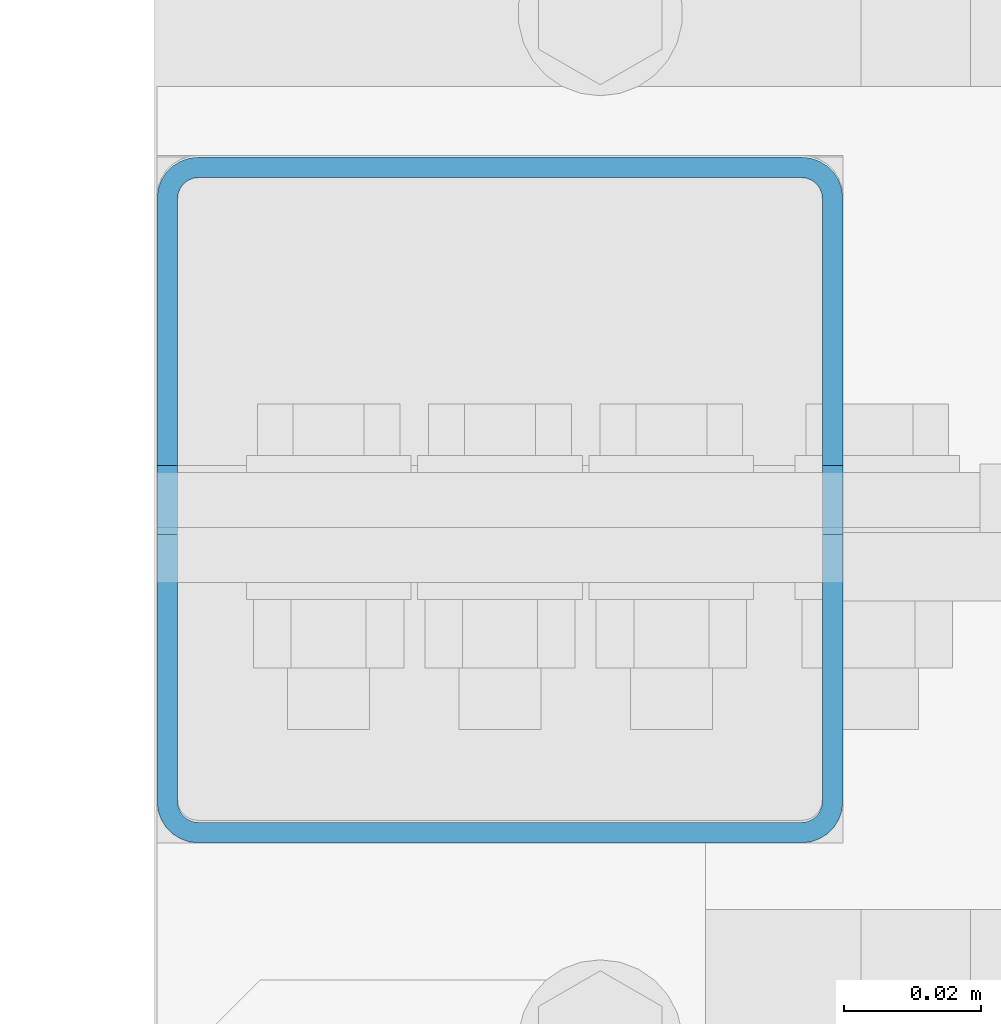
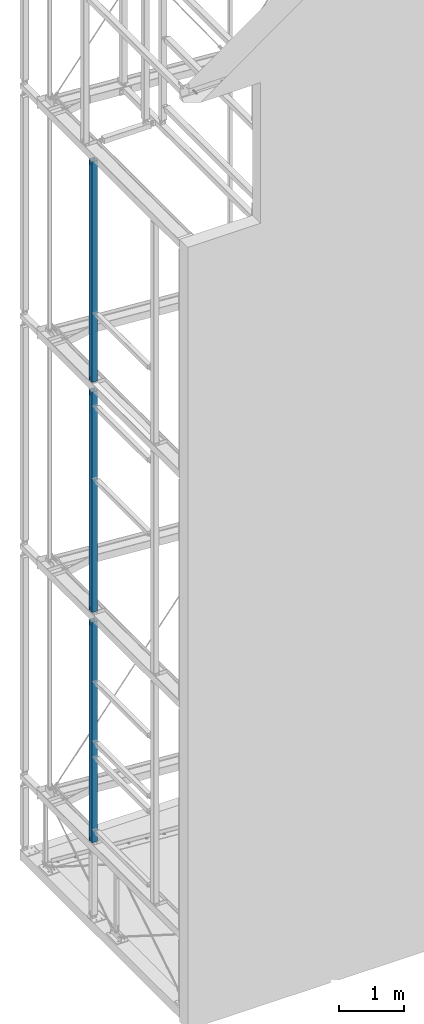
# One storey, part 15 of 271: 3 beams, 3 elements without a shape of their own.
"""IFC2X3 building model written with IfcOpenShell, lengths in millimetres."""

import ifcopenshell
import ifcopenshell.guid

model = None  # the IFC model being written
_history = None  # IfcOwnerHistory: only IFC2X3 demands one
_inside = {}  # id of a spatial element -> (the spatial element, [elements in it])
_under = {}  # id of a project, library or spatial element -> (it, [spatial elements below it])
_declared = {}  # id of a project -> (the project, [libraries it declares])
_typed = {}  # id of a type object -> (the type object, [elements of that type])
_made_of = {}  # id of a material, layer set ... -> (it, [elements and type objects made of it])


def new_model(schema):
    """Start an empty IFC model of exactly this schema.

    Asked for "IFC4X3", IfcOpenShell would pick the latest addendum, in which some entities
    have other attributes; the version numbers below select the first issue.
    IFC2X3 requires an IfcOwnerHistory on every rooted entity: one is made here for all.
    """
    global model, _history
    if schema == "IFC4X3":
        model = ifcopenshell.file(schema_version=(4, 3, 0, 0))
    else:
        model = ifcopenshell.file(schema=schema)
    _inside.clear()
    _under.clear()
    _declared.clear()
    _typed.clear()
    _made_of.clear()
    _history = None
    if model.schema == "IFC2X3":
        org = make("IfcOrganization", Name="unknown")
        user = make(
            "IfcPersonAndOrganization",
            ThePerson=make("IfcPerson", FamilyName="unknown"),
            TheOrganization=org,
        )
        app = make(
            "IfcApplication",
            ApplicationDeveloper=org,
            Version="unknown",
            ApplicationFullName="unknown",
            ApplicationIdentifier="unknown",
        )
        _history = make(
            "IfcOwnerHistory",
            OwningUser=user,
            OwningApplication=app,
            ChangeAction="ADDED",
            CreationDate=0,
        )
    return model


def make(cls, **values):
    """One entity of the class cls with the attributes given. An attribute that is None is left unset."""
    return model.create_entity(
        cls, **{name: value for name, value in values.items() if value is not None}
    )


def rooted(cls, **values):
    """An entity with a GlobalId (a new one), such as an element, a storey or a relation."""
    return make(cls, GlobalId=ifcopenshell.guid.new(), OwnerHistory=_history, **values)


def si_unit(unit_type, name, prefix=None):
    """IfcSIUnit, for example si_unit("LENGTHUNIT", "METRE", prefix="MILLI")."""
    return make("IfcSIUnit", UnitType=unit_type, Prefix=prefix, Name=name)


def assignment(units):
    """IfcUnitAssignment: the units of a project."""
    return None if units is None else make("IfcUnitAssignment", Units=units)


def point(xyz):
    """IfcCartesianPoint."""
    return None if xyz is None else make("IfcCartesianPoint", Coordinates=xyz)


def direction(xyz):
    """IfcDirection."""
    return None if xyz is None else make("IfcDirection", DirectionRatios=xyz)


def frame(location, z_axis=None, x_axis=None):
    """IfcAxis2Placement3D, a coordinate frame: its origin and axes. An axis left out is left unset."""
    return make(
        "IfcAxis2Placement3D",
        Location=point(location),
        Axis=direction(z_axis),
        RefDirection=direction(x_axis),
    )


def frame_2d(location, x_axis=None):
    """IfcAxis2Placement2D, a coordinate frame in the plane: its origin and x axis."""
    return make(
        "IfcAxis2Placement2D", Location=point(location), RefDirection=direction(x_axis)
    )


def origin_with_axes():
    """The frame at (0, 0, 0) with the z axis (0, 0, 1) and the x axis (1, 0, 0) written out."""
    return frame((0.0, 0.0, 0.0), z_axis=(0.0, 0.0, 1.0), x_axis=(1.0, 0.0, 0.0))


def origin_2d_with_axis():
    """The frame at (0, 0) in the plane with the x axis (1, 0) written out."""
    return frame_2d((0.0, 0.0), x_axis=(1.0, 0.0))


def place(relative_to, where):
    """IfcLocalPlacement: puts the frame where relative to a parent placement (None: the world)."""
    return make(
        "IfcLocalPlacement", PlacementRelTo=relative_to, RelativePlacement=where
    )


def context(
    kind, dimensions, precision=None, world=None, true_north=None, identifier=None
):
    """IfcGeometricRepresentationContext, for example the 3D "Model" context."""
    return make(
        "IfcGeometricRepresentationContext",
        ContextIdentifier=identifier,
        ContextType=kind,
        CoordinateSpaceDimension=dimensions,
        Precision=precision,
        WorldCoordinateSystem=world,
        TrueNorth=true_north,
    )


def subcontext(parent, identifier, kind, view, scale=None):
    """IfcGeometricRepresentationSubContext, for example "Body" below "Model"."""
    return make(
        "IfcGeometricRepresentationSubContext",
        ContextIdentifier=identifier,
        ContextType=kind,
        ParentContext=parent,
        TargetScale=scale,
        TargetView=view,
    )


def project(units=None, contexts=None):
    """IfcProject with its units and contexts."""
    return rooted(
        "IfcProject",
        Name="project",
        RepresentationContexts=contexts,
        UnitsInContext=assignment(units),
    )


def spatial(cls, under=None, at=None, **own):
    """A site, building, storey or space (cls), placed at a placement, below another one or the project."""
    s = rooted(cls, ObjectPlacement=at, **own)
    if under is not None:
        _under.setdefault(under.id(), (under, []))[1].append(s)
    return s


def polyline(points):
    """IfcPolyline through the points."""
    return make("IfcPolyline", Points=[point(p) for p in points])


def profile(cls, at=None, kind="AREA", **sizes):
    """A parametric profile (cls). Its sizes go by their IFC names, for example OverallWidth=200.0."""
    return make(cls, ProfileType=kind, Position=at, **sizes)


def hollow_rectangle(**sizes):
    """IfcRectangleHollowProfileDef."""
    return profile("IfcRectangleHollowProfileDef", **sizes)


def outline(outer, holes=None, kind="AREA"):
    """IfcArbitraryClosedProfileDef: a profile drawn as a closed curve; with holes, ...WithVoids."""
    if holes is None:
        return make("IfcArbitraryClosedProfileDef", ProfileType=kind, OuterCurve=outer)
    return make(
        "IfcArbitraryProfileDefWithVoids",
        ProfileType=kind,
        OuterCurve=outer,
        InnerCurves=holes,
    )


def extrude(swept, where, along, depth):
    """IfcExtrudedAreaSolid: the profile swept, set in the frame where, extruded along a direction by depth."""
    return make(
        "IfcExtrudedAreaSolid",
        SweptArea=swept,
        Position=where,
        ExtrudedDirection=direction(along),
        Depth=depth,
    )


def boolean(op, a, b):
    """IfcBooleanResult of two solids."""
    return make("IfcBooleanResult", Operator=op, FirstOperand=a, SecondOperand=b)


def halfspace(plane, agree):
    """IfcHalfSpaceSolid: all space on one side of the plane z = 0 of the frame plane."""
    return make(
        "IfcHalfSpaceSolid",
        BaseSurface=make("IfcPlane", Position=plane),
        AgreementFlag=agree,
    )


def shape(context_of_items, identifier, shape_type, items):
    """IfcShapeRepresentation: the items that make up one representation, for example the "Body"."""
    return make(
        "IfcShapeRepresentation",
        ContextOfItems=context_of_items,
        RepresentationIdentifier=identifier,
        RepresentationType=shape_type,
        Items=items,
    )


def material(Name=None, Category=None):
    """IfcMaterial."""
    return make("IfcMaterial", Name=Name, Category=Category)


def made_of(thing, what):
    """Note that an element or type object is made of a material, layer set ...; save() writes the relation."""
    if what is not None:
        _made_of.setdefault(what.id(), (what, []))[1].append(thing)
    return thing


def type_object(cls, material=None, **own):
    """A type object (cls), such as IfcWallType, which elements share."""
    return made_of(rooted(cls, **own), material)


def element(
    cls,
    number,
    at=None,
    inside=None,
    cuts=None,
    type_object=None,
    material=None,
    context=None,
    identifier="Body",
    shape_type=None,
    held_by="IfcProductDefinitionShape",
    body=None,
    shapes=None,
    **own,
):
    """One element of the class cls, such as IfcWall. Its Tag is "e" and its number.

    at: its placement. inside: the storey or other place that contains it. cuts: it is an
    opening in that element (IfcRelVoidsElement). A single representation is given by context,
    identifier, shape_type and body (its items); several are given by shapes. held_by: the class
    of the entity that holds the representations. save() writes the other relations.
    """
    e = rooted(cls, Tag="e%d" % number, ObjectPlacement=at, **own)
    if body is not None:
        shapes = [shape(context, identifier, shape_type, body)]
    if shapes is not None:
        e.Representation = make(held_by, Representations=shapes)
    if inside is not None:
        _inside.setdefault(inside.id(), (inside, []))[1].append(e)
    if cuts is not None:
        rooted(
            "IfcRelVoidsElement", RelatingBuildingElement=cuts, RelatedOpeningElement=e
        )
    if type_object is not None:
        _typed.setdefault(type_object.id(), (type_object, []))[1].append(e)
    return made_of(e, material)


def aggregate(whole, parts):
    """IfcRelAggregates: a whole, such as a stair, and the parts it consists of."""
    return rooted("IfcRelAggregates", RelatingObject=whole, RelatedObjects=parts)


def save(model, path):
    """Write the relations noted so far, then the file.

    IfcRelAggregates (storeys below a building ...), IfcRelContainedInSpatialStructure (elements
    in a storey), IfcRelDefinesByType, IfcRelAssociatesMaterial and IfcRelDeclares: one each for
    every whole, place, type object, material and project.
    """
    for whole, parts in _under.values():
        aggregate(whole, parts)
    for where, things in _inside.values():
        rooted(
            "IfcRelContainedInSpatialStructure",
            RelatedElements=things,
            RelatingStructure=where,
        )
    for kind, things in _typed.values():
        rooted("IfcRelDefinesByType", RelatedObjects=things, RelatingType=kind)
    for what, things in _made_of.values():
        rooted("IfcRelAssociatesMaterial", RelatedObjects=things, RelatingMaterial=what)
    for by, libraries in _declared.values():
        rooted("IfcRelDeclares", RelatingContext=by, RelatedDefinitions=libraries)
    model.write(path)


model = new_model("IFC2X3")

# Units and contexts
model_context = context("Model", 3, precision=1e-05, world=origin_with_axes())
body_context = subcontext(model_context, "Body", "Model", "MODEL_VIEW")
ifc_project = project(units=[si_unit("LENGTHUNIT", "METRE", prefix="MILLI"), si_unit("AREAUNIT", "SQUARE_METRE"), si_unit("VOLUMEUNIT", "CUBIC_METRE"), si_unit("MASSUNIT", "GRAM", prefix="KILO"), si_unit("TIMEUNIT", "SECOND"), si_unit("PLANEANGLEUNIT", "RADIAN"), si_unit("SOLIDANGLEUNIT", "STERADIAN"), si_unit("THERMODYNAMICTEMPERATUREUNIT", "DEGREE_CELSIUS"), si_unit("LUMINOUSINTENSITYUNIT", "LUMEN")], contexts=[model_context])

# Site, building, storey
site_placement = place(None, origin_with_axes())
site = spatial("IfcSite", under=ifc_project, at=site_placement, Name="Undefined", CompositionType="ELEMENT")
building_placement = place(site_placement, origin_with_axes())
building = spatial("IfcBuilding", under=site, at=building_placement, Name="Undefined", CompositionType="ELEMENT")
storey_placement = place(building_placement, origin_with_axes())
storey = spatial("IfcBuildingStorey", under=building, at=storey_placement, Name="Undefined", CompositionType="ELEMENT", Elevation=0.0)

# Assembly, beam
assembly_1_placement = place(storey_placement, origin_with_axes())
assembly_1 = element("IfcElementAssembly", 1, at=assembly_1_placement, inside=storey, AssemblyPlace="NOTDEFINED", PredefinedType="RIGID_FRAME")
ifc_material = material(Name="STEEL/S355JR")
beam_type = type_object("IfcBeamType", Name="SHS100*3", PredefinedType="NOTDEFINED")
beam_1_placement = place(assembly_1_placement, frame((38.3756870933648, 2799.05211980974, 10091.8499999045), z_axis=(0.0, 1.0, 0.0), x_axis=(0.0, 0.0, 1.0)))
beam_1 = element("IfcBeam", 2, at=beam_1_placement, type_object=beam_type, material=ifc_material, Name="RYGIEL", ObjectType="SHS100*3", context=body_context, shape_type="CSG", body=[
    boolean("DIFFERENCE", boolean("DIFFERENCE", boolean("DIFFERENCE", extrude(hollow_rectangle(XDim=100.0, YDim=100.0, WallThickness=3.0, InnerFilletRadius=3.0, OuterFilletRadius=6.0, at=origin_2d_with_axis()), frame((4141.0, 0.0, 0.0), z_axis=(-1.0, 0.0, 1.38777878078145e-17), x_axis=(0.0, -1.0, 0.0)), (0.0, 0.0, 1.0), 4141.0), extrude(outline(polyline([(0.0, 40.0), (80.0, 0.0), (151.0, -1.91135995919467e-12), (151.0, 120.0), (91.0, 120.0), (91.0, 150.0), (1.4210854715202e-14, 150.0), (0.0, 40.0)])), frame((4064.0, 99.9999999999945, 5.00000000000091), z_axis=(0.0, 0.0, -1.0), x_axis=(1.0, 0.0, 0.0)), (0.0, 0.0, 1.0), 10.0)), extrude(outline(polyline([(0.0, 40.0), (80.0, 0.0), (151.0, -1.91135995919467e-12), (151.0, 120.0), (91.0, 120.0), (91.0, 150.0), (1.4210854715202e-14, 150.0), (0.0, 40.0)])), frame((81.0000000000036, 99.9999999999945, -4.99999999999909), z_axis=(0.0, 0.0, 1.0), x_axis=(-1.0, 0.0, 1.38777878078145e-17)), (0.0, 0.0, 1.0), 10.0)), halfspace(frame((4.0, 0.0, -50.0), z_axis=(1.0, 0.0, 0.0), x_axis=(0.0, -1.0, 0.0)), True)),
])
aggregate(assembly_1, [beam_1])

assembly_2_placement = place(storey_placement, origin_with_axes())
assembly_2 = element("IfcElementAssembly", 3, at=assembly_2_placement, inside=storey, AssemblyPlace="NOTDEFINED", PredefinedType="RIGID_FRAME")
beam_2_placement = place(assembly_2_placement, frame((38.3756870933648, 2799.05211980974, 5771.84999990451), z_axis=(0.0, 1.0, 0.0), x_axis=(0.0, 0.0, 1.0)))
beam_2 = element("IfcBeam", 4, at=beam_2_placement, type_object=beam_type, material=ifc_material, Name="RYGIEL", ObjectType="SHS100*3", context=body_context, shape_type="CSG", body=[
    boolean("DIFFERENCE", boolean("DIFFERENCE", boolean("DIFFERENCE", extrude(hollow_rectangle(XDim=100.0, YDim=100.0, WallThickness=3.0, InnerFilletRadius=3.0, OuterFilletRadius=6.0, at=origin_2d_with_axis()), frame((4141.0, 0.0, 0.0), z_axis=(-1.0, 0.0, 1.38777878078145e-17), x_axis=(0.0, -1.0, 0.0)), (0.0, 0.0, 1.0), 4141.0), extrude(outline(polyline([(0.0, 40.0), (80.0, 0.0), (151.0, -1.91135995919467e-12), (151.0, 120.0), (91.0, 120.0), (91.0, 150.0), (1.4210854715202e-14, 150.0), (0.0, 40.0)])), frame((4064.0, 99.9999999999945, 5.00000000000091), z_axis=(0.0, 0.0, -1.0), x_axis=(1.0, 0.0, 0.0)), (0.0, 0.0, 1.0), 10.0)), extrude(outline(polyline([(0.0, 40.0), (80.0, 0.0), (151.0, -1.91135995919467e-12), (151.0, 120.0), (91.0, 120.0), (91.0, 150.0), (1.4210854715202e-14, 150.0), (0.0, 40.0)])), frame((81.0000000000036, 99.9999999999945, -4.99999999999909), z_axis=(0.0, 0.0, 1.0), x_axis=(-1.0, 0.0, 1.38777878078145e-17)), (0.0, 0.0, 1.0), 10.0)), halfspace(frame((4.0, 0.0, -50.0), z_axis=(1.0, 0.0, 0.0), x_axis=(0.0, -1.0, 0.0)), True)),
])
aggregate(assembly_2, [beam_2])

assembly_3_placement = place(storey_placement, origin_with_axes())
assembly_3 = element("IfcElementAssembly", 5, at=assembly_3_placement, inside=storey, AssemblyPlace="NOTDEFINED", PredefinedType="RIGID_FRAME")
beam_3_placement = place(assembly_3_placement, frame((38.3756870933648, 2799.05211980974, 1451.84999990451), z_axis=(0.0, 1.0, 0.0), x_axis=(0.0, 0.0, 1.0)))
beam_3 = element("IfcBeam", 6, at=beam_3_placement, type_object=beam_type, material=ifc_material, Name="RYGIEL", ObjectType="SHS100*3", context=body_context, shape_type="CSG", body=[
    boolean("DIFFERENCE", boolean("DIFFERENCE", boolean("DIFFERENCE", extrude(hollow_rectangle(XDim=100.0, YDim=100.0, WallThickness=3.0, InnerFilletRadius=3.0, OuterFilletRadius=6.0, at=origin_2d_with_axis()), frame((4141.0, 0.0, 0.0), z_axis=(-1.0, 0.0, 1.38777878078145e-17), x_axis=(0.0, -1.0, 0.0)), (0.0, 0.0, 1.0), 4141.0), extrude(outline(polyline([(0.0, 40.0), (80.0, 0.0), (151.0, -1.91135995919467e-12), (151.0, 120.0), (91.0, 120.0), (91.0, 150.0), (1.4210854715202e-14, 150.0), (0.0, 40.0)])), frame((4064.0, 99.9999999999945, 5.00000000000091), z_axis=(0.0, 0.0, -1.0), x_axis=(1.0, 0.0, 0.0)), (0.0, 0.0, 1.0), 10.0)), extrude(outline(polyline([(0.0, 40.0), (80.0, 0.0), (151.0, -1.91135995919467e-12), (151.0, 120.0), (91.0, 120.0), (91.0, 150.0), (1.4210854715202e-14, 150.0), (0.0, 40.0)])), frame((81.0000000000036, 99.9999999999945, -4.99999999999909), z_axis=(0.0, 0.0, 1.0), x_axis=(-1.0, 0.0, 1.38777878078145e-17)), (0.0, 0.0, 1.0), 10.0)), halfspace(frame((4.0, 0.0, -50.0), z_axis=(1.0, 0.0, 0.0), x_axis=(0.0, -1.0, 0.0)), True)),
])
aggregate(assembly_3, [beam_3])

save(model, "model.ifc")
